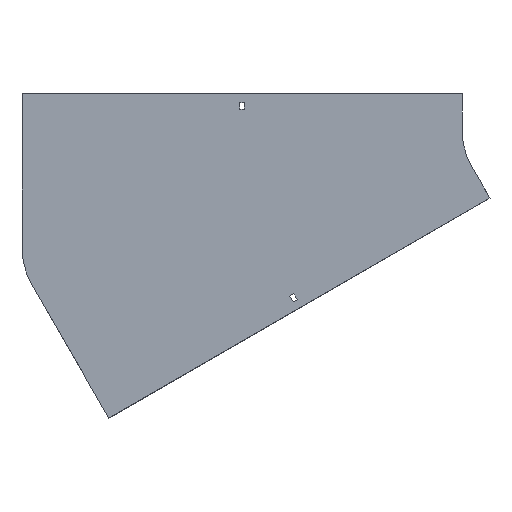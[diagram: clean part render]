
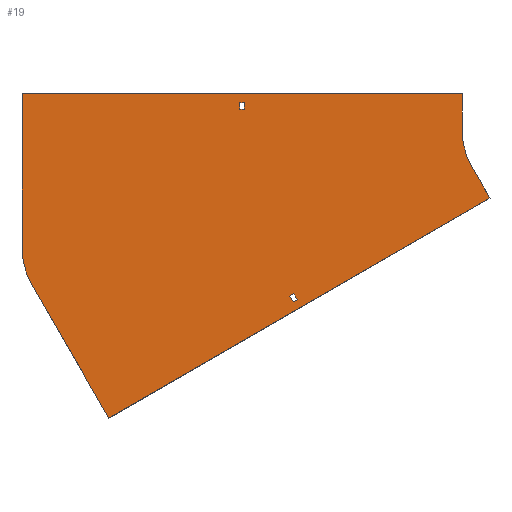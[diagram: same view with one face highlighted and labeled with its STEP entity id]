
A CAD part, front view. The second image highlights one B-rep face of the part: STEP entity #19.
In plain terms, the highlighted planar face has unit normal (0, -1, 0).
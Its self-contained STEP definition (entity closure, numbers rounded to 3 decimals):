
#5 = EDGE_CURVE ( 'NONE', #551, #1050, #162, .T. ) ;
#18 = DIRECTION ( 'NONE',  ( 0., -1., 0. ) ) ;
#19 = ADVANCED_FACE ( 'NONE', ( #1197, #1360, #285 ), #1370, .T. ) ;
#107 = ORIENTED_EDGE ( 'NONE', *, *, #1142, .T. ) ;
#109 = LINE ( 'NONE', #261, #319 ) ;
#110 = VECTOR ( 'NONE', #844, 1000. ) ;
#125 = EDGE_CURVE ( 'NONE', #1418, #859, #1715, .T. ) ;
#130 = CARTESIAN_POINT ( 'NONE',  ( -331.957, 0., -235.534 ) ) ;
#141 = VERTEX_POINT ( 'NONE', #966 ) ;
#162 = LINE ( 'NONE', #460, #1594 ) ;
#216 = CARTESIAN_POINT ( 'NONE',  ( -398.75, 0., 29. ) ) ;
#217 = DIRECTION ( 'NONE',  ( 0.5, 0., -0.866 ) ) ;
#228 = DIRECTION ( 'NONE',  ( -0.866, 0., -0.5 ) ) ;
#230 = DIRECTION ( 'NONE',  ( 0., 1., 0. ) ) ;
#261 = CARTESIAN_POINT ( 'NONE',  ( -86.603, 0., -50. ) ) ;
#265 = ORIENTED_EDGE ( 'NONE', *, *, #1866, .F. ) ;
#285 = FACE_BOUND ( 'NONE', #465, .T. ) ;
#298 = LINE ( 'NONE', #922, #1595 ) ;
#301 = LINE ( 'NONE', #1220, #1662 ) ;
#317 = DIRECTION ( 'NONE',  ( 0., 0., -1. ) ) ;
#319 = VECTOR ( 'NONE', #217, 1000. ) ;
#323 = CIRCLE ( 'NONE', #865, 100. ) ;
#367 = DIRECTION ( 'NONE',  ( 0., 0., -1. ) ) ;
#373 = LINE ( 'NONE', #501, #110 ) ;
#385 = VECTOR ( 'NONE', #1122, 1000. ) ;
#393 = DIRECTION ( 'NONE',  ( 1., 0., 0. ) ) ;
#407 = LINE ( 'NONE', #869, #1149 ) ;
#414 = CARTESIAN_POINT ( 'NONE',  ( -405.25, 0., 29. ) ) ;
#424 = VERTEX_POINT ( 'NONE', #1541 ) ;
#440 = EDGE_CURVE ( 'NONE', #621, #1888, #1384, .T. ) ;
#458 = VERTEX_POINT ( 'NONE', #1099 ) ;
#460 = CARTESIAN_POINT ( 'NONE',  ( -100., 0., 50. ) ) ;
#465 = EDGE_LOOP ( 'NONE', ( #1915, #839, #814, #1820 ) ) ;
#467 = EDGE_CURVE ( 'NONE', #1050, #458, #323, .T. ) ;
#477 = EDGE_CURVE ( 'NONE', #725, #141, #1063, .T. ) ;
#482 = DIRECTION ( 'NONE',  ( -0.5, 0., 0.866 ) ) ;
#496 = CARTESIAN_POINT ( 'NONE',  ( -405.25, 0., 29. ) ) ;
#501 = CARTESIAN_POINT ( 'NONE',  ( -336.457, 0., -227.74 ) ) ;
#504 = LINE ( 'NONE', #1881, #1376 ) ;
#524 = LINE ( 'NONE', #216, #1683 ) ;
#540 = VECTOR ( 'NONE', #934, 1000. ) ;
#551 = VERTEX_POINT ( 'NONE', #567 ) ;
#555 = CARTESIAN_POINT ( 'NONE',  ( -604., 0., -161.841 ) ) ;
#567 = CARTESIAN_POINT ( 'NONE',  ( -100., 0., 50. ) ) ;
#571 = CIRCLE ( 'NONE', #1361, 100. ) ;
#574 = VERTEX_POINT ( 'NONE', #1802 ) ;
#589 = VERTEX_POINT ( 'NONE', #1782 ) ;
#616 = ORIENTED_EDGE ( 'NONE', *, *, #1513, .F. ) ;
#620 = CARTESIAN_POINT ( 'NONE',  ( -584.682, 0., -395.301 ) ) ;
#621 = VERTEX_POINT ( 'NONE', #130 ) ;
#623 = CARTESIAN_POINT ( 'NONE',  ( -704., 0., 50. ) ) ;
#655 = EDGE_CURVE ( 'NONE', #589, #886, #407, .T. ) ;
#725 = VERTEX_POINT ( 'NONE', #1677 ) ;
#751 = AXIS2_PLACEMENT_3D ( 'NONE', #889, #18, #1833 ) ;
#764 = DIRECTION ( 'NONE',  ( 1., 0., 0. ) ) ;
#765 = ORIENTED_EDGE ( 'NONE', *, *, #1369, .T. ) ;
#770 = EDGE_CURVE ( 'NONE', #1256, #424, #773, .T. ) ;
#773 = LINE ( 'NONE', #620, #1395 ) ;
#776 = DIRECTION ( 'NONE',  ( 0., 0., -1. ) ) ;
#794 = EDGE_CURVE ( 'NONE', #574, #1609, #524, .T. ) ;
#814 = ORIENTED_EDGE ( 'NONE', *, *, #477, .F. ) ;
#821 = EDGE_LOOP ( 'NONE', ( #616, #1181, #1214, #1071, #1482, #265, #1123, #1577 ) ) ;
#839 = ORIENTED_EDGE ( 'NONE', *, *, #1249, .F. ) ;
#844 = DIRECTION ( 'NONE',  ( 0.5, 0., -0.866 ) ) ;
#856 = EDGE_CURVE ( 'NONE', #1385, #1256, #504, .T. ) ;
#859 = VERTEX_POINT ( 'NONE', #1443 ) ;
#865 = AXIS2_PLACEMENT_3D ( 'NONE', #1074, #1665, #317 ) ;
#869 = CARTESIAN_POINT ( 'NONE',  ( -704., 0., -161.841 ) ) ;
#886 = VERTEX_POINT ( 'NONE', #1589 ) ;
#889 = CARTESIAN_POINT ( 'NONE',  ( 0., 0., 0. ) ) ;
#916 = CARTESIAN_POINT ( 'NONE',  ( -336.457, 0., -227.74 ) ) ;
#922 = CARTESIAN_POINT ( 'NONE',  ( -330.828, 0., -224.49 ) ) ;
#934 = DIRECTION ( 'NONE',  ( -0.866, 0., -0.5 ) ) ;
#935 = EDGE_LOOP ( 'NONE', ( #1299, #765, #1175, #107 ) ) ;
#939 = VECTOR ( 'NONE', #764, 1000. ) ;
#941 = LINE ( 'NONE', #623, #939 ) ;
#966 = CARTESIAN_POINT ( 'NONE',  ( -336.457, 0., -227.74 ) ) ;
#1050 = VERTEX_POINT ( 'NONE', #1641 ) ;
#1063 = LINE ( 'NONE', #916, #540 ) ;
#1071 = ORIENTED_EDGE ( 'NONE', *, *, #770, .F. ) ;
#1074 = CARTESIAN_POINT ( 'NONE',  ( 0., 0., 0. ) ) ;
#1083 = DIRECTION ( 'NONE',  ( -0.5, 0., 0.866 ) ) ;
#1087 = CARTESIAN_POINT ( 'NONE',  ( -398.75, 0., 29. ) ) ;
#1099 = CARTESIAN_POINT ( 'NONE',  ( -86.603, 0., -50. ) ) ;
#1122 = DIRECTION ( 'NONE',  ( 0., 0., 1. ) ) ;
#1123 = ORIENTED_EDGE ( 'NONE', *, *, #467, .F. ) ;
#1142 = EDGE_CURVE ( 'NONE', #1609, #1418, #301, .T. ) ;
#1149 = VECTOR ( 'NONE', #1464, 1000. ) ;
#1175 = ORIENTED_EDGE ( 'NONE', *, *, #794, .T. ) ;
#1179 = VECTOR ( 'NONE', #1356, 1000. ) ;
#1181 = ORIENTED_EDGE ( 'NONE', *, *, #655, .F. ) ;
#1197 = FACE_BOUND ( 'NONE', #935, .T. ) ;
#1214 = ORIENTED_EDGE ( 'NONE', *, *, #1922, .F. ) ;
#1220 = CARTESIAN_POINT ( 'NONE',  ( -405.25, 0., 29. ) ) ;
#1249 = EDGE_CURVE ( 'NONE', #141, #621, #373, .T. ) ;
#1256 = VERTEX_POINT ( 'NONE', #1856 ) ;
#1299 = ORIENTED_EDGE ( 'NONE', *, *, #125, .T. ) ;
#1315 = LINE ( 'NONE', #1471, #1942 ) ;
#1356 = DIRECTION ( 'NONE',  ( 0.866, 0., 0.5 ) ) ;
#1360 = FACE_OUTER_BOUND ( 'NONE', #821, .T. ) ;
#1361 = AXIS2_PLACEMENT_3D ( 'NONE', #555, #230, #1735 ) ;
#1369 = EDGE_CURVE ( 'NONE', #859, #574, #1315, .T. ) ;
#1370 = PLANE ( 'NONE',  #751 ) ;
#1376 = VECTOR ( 'NONE', #228, 1000. ) ;
#1384 = LINE ( 'NONE', #1691, #1179 ) ;
#1385 = VERTEX_POINT ( 'NONE', #1639 ) ;
#1395 = VECTOR ( 'NONE', #1083, 1000. ) ;
#1418 = VERTEX_POINT ( 'NONE', #414 ) ;
#1443 = CARTESIAN_POINT ( 'NONE',  ( -405.25, 0., 38. ) ) ;
#1464 = DIRECTION ( 'NONE',  ( 0., 0., 1. ) ) ;
#1471 = CARTESIAN_POINT ( 'NONE',  ( -405.25, 0., 38. ) ) ;
#1482 = ORIENTED_EDGE ( 'NONE', *, *, #856, .F. ) ;
#1510 = DIRECTION ( 'NONE',  ( -1., 0., 0. ) ) ;
#1513 = EDGE_CURVE ( 'NONE', #886, #551, #941, .T. ) ;
#1541 = CARTESIAN_POINT ( 'NONE',  ( -690.603, 0., -211.841 ) ) ;
#1549 = EDGE_CURVE ( 'NONE', #1888, #725, #298, .T. ) ;
#1577 = ORIENTED_EDGE ( 'NONE', *, *, #5, .F. ) ;
#1589 = CARTESIAN_POINT ( 'NONE',  ( -704., 0., 50. ) ) ;
#1594 = VECTOR ( 'NONE', #776, 1000. ) ;
#1595 = VECTOR ( 'NONE', #482, 1000. ) ;
#1609 = VERTEX_POINT ( 'NONE', #1087 ) ;
#1612 = CARTESIAN_POINT ( 'NONE',  ( -326.328, 0., -232.284 ) ) ;
#1639 = CARTESIAN_POINT ( 'NONE',  ( -61.603, 0., -93.301 ) ) ;
#1641 = CARTESIAN_POINT ( 'NONE',  ( -100., 0., 0. ) ) ;
#1662 = VECTOR ( 'NONE', #1510, 1000. ) ;
#1665 = DIRECTION ( 'NONE',  ( 0., -1., 0. ) ) ;
#1677 = CARTESIAN_POINT ( 'NONE',  ( -330.828, 0., -224.49 ) ) ;
#1683 = VECTOR ( 'NONE', #367, 1000. ) ;
#1691 = CARTESIAN_POINT ( 'NONE',  ( -331.957, 0., -235.534 ) ) ;
#1715 = LINE ( 'NONE', #496, #385 ) ;
#1735 = DIRECTION ( 'NONE',  ( 0., 0., 1. ) ) ;
#1782 = CARTESIAN_POINT ( 'NONE',  ( -704., 0., -161.841 ) ) ;
#1802 = CARTESIAN_POINT ( 'NONE',  ( -398.75, 0., 38. ) ) ;
#1820 = ORIENTED_EDGE ( 'NONE', *, *, #1549, .F. ) ;
#1833 = DIRECTION ( 'NONE',  ( 0., 0., -1. ) ) ;
#1856 = CARTESIAN_POINT ( 'NONE',  ( -584.682, 0., -395.301 ) ) ;
#1866 = EDGE_CURVE ( 'NONE', #458, #1385, #109, .T. ) ;
#1881 = CARTESIAN_POINT ( 'NONE',  ( -61.603, 0., -93.301 ) ) ;
#1888 = VERTEX_POINT ( 'NONE', #1612 ) ;
#1915 = ORIENTED_EDGE ( 'NONE', *, *, #440, .F. ) ;
#1922 = EDGE_CURVE ( 'NONE', #424, #589, #571, .T. ) ;
#1942 = VECTOR ( 'NONE', #393, 1000. ) ;
